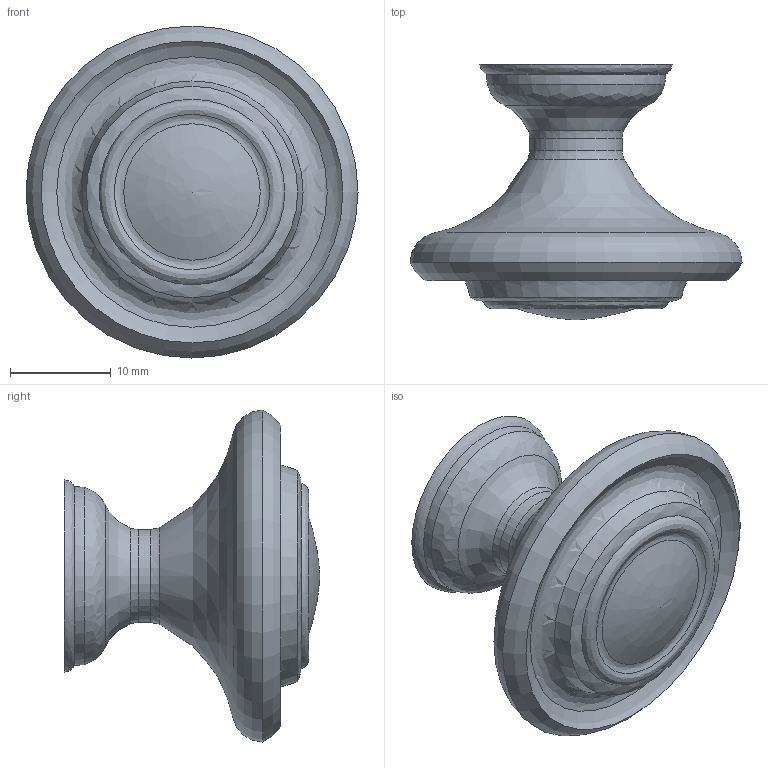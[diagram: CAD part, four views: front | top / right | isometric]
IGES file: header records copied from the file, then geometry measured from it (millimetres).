
Start section: Data from Parasolid IGES Translator 15.0.47, Copyright(c) 2006 Siemens P LM Software. All Rights Reserved.
Global section: file name: 9113219.igs; native system:  By UGS Corp.; preprocessor: XPlus GENERIC/IGES 3.0; author: Noname; organization: Noname; date: 20160704.105634; units: millimetre
Bounding box: 33 x 25.4 x 33 mm (x, y, z)
Surface area: 3116.5 mm2 (no closed solid volume)
Topology: 0 solids, 0 shells, 20 faces, 75 edges, 58 vertices
Faces by surface type: revolution 18, extrusion 2
